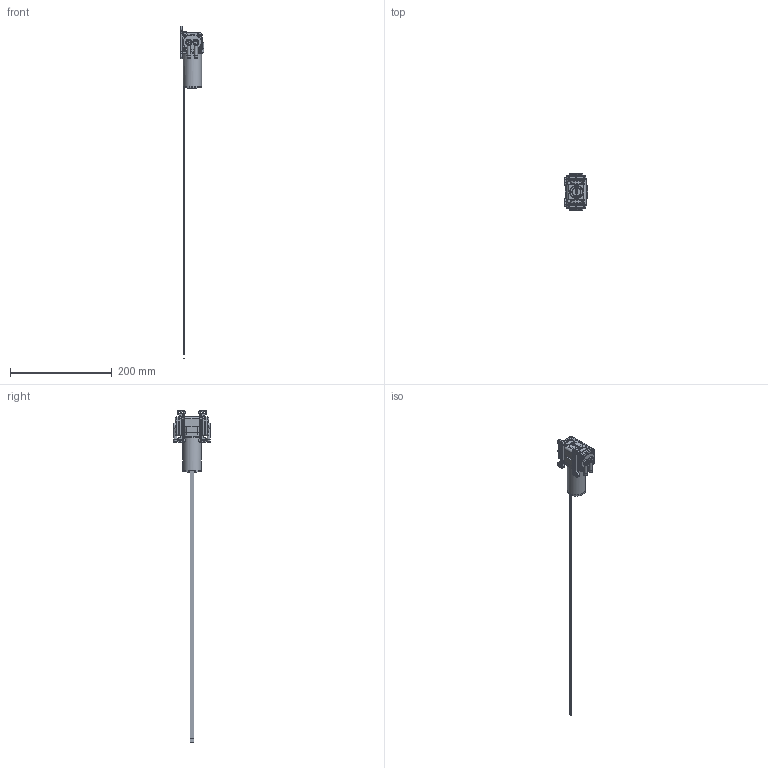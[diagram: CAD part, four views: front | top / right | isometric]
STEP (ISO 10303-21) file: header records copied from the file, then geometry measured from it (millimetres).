
FILE_DESCRIPTION (( 'STEP AP214' ), '1' );
FILE_NAME ('3232.6xx_Rev00_Assy.STEP', '2023-08-01T10:37:39', ( '' ), ( '' ), 'SwSTEP 2.0', 'SolidWorks 2021', '' );
FILE_SCHEMA (( 'AUTOMOTIVE_DESIGN' ));
Length unit declared in the file: millimetre
Products named in the file (1): 3232.6xx_Rev00_Assy
Bounding box: 45.85 x 73.4 x 651.02 mm (x, y, z)
Volume: 74200.7 mm3; surface area: 72723.8 mm2
Topology: 30 solids, 30 shells, 1660 faces, 3906 edges, 2440 vertices
Faces by surface type: cylinder 510, cone 506, plane 457, bspline 103, torus 80, sphere 4
Full cylindrical faces by diameter (mm): 0.8 x4, 1.4 x4, 2.4 x40, 2.5 x10, 2.8 x4, 3.2 x13, 3.4 x10, 3.5 x4, 3.6 x4, 3.7 x3, 4.2 x24, 6 x1, 6.5 x4, 8 x4, 10 x2, 18 x2, 18.05 x1, 30.336 x4, 32 x1, 36 x2
Entity records: 86296 total; most frequent: CARTESIAN_POINT 33354, ORIENTED_EDGE 6910, DIRECTION 6657, EDGE_CURVE 3455, AXIS2_PLACEMENT_3D 2717, VERTEX_POINT 2316, EDGE_LOOP 2251, FACE_OUTER_BOUND 1831
